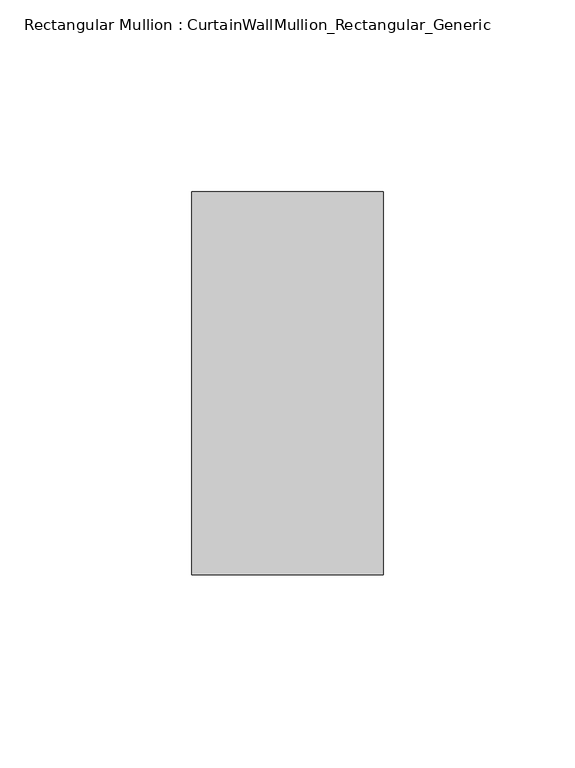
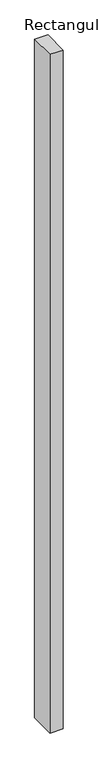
"""IFC4 building model written with IfcOpenShell, lengths in millimetres: member geometry, Rectangular Mullion : CurtainWallMullion_Rectangular_Generic."""

from ifc_helpers import new_model, si_unit, frame, origin, place, context, project, spatial, polyline, outline, extrude, source, transform, mapped, element, save


def rectangular_mullion_curtainwallmullion_rectangular_generic_12ad56c0(model_context):
    return source(origin(), model_context, "Body", "SweptSolid", [
        extrude(outline(polyline([(0.0, 50.0), (0.0, -50.0), (-50.0, -50.0), (-50.0, 50.0), (0.0, 50.0)])), frame((0.0, 0.0, -2714.5999999), z_axis=(0.0, 0.0, 1.0), x_axis=(1.0, 0.0, 0.0)), (0.0, 0.0, 1.0), 2714.5999999),
    ])


if __name__ == "__main__":
    model = new_model("IFC4")
    model_context = context("Model", 3, world=origin())
    ifc_project = project(units=[si_unit("LENGTHUNIT", "METRE", prefix="MILLI")], contexts=[model_context])
    site = spatial("IfcSite", under=ifc_project)
    building = spatial("IfcBuilding", under=site)
    placement = place(None, origin())
    rectangular_mullion_curtainwallmullion_rectangular_generic_shape = rectangular_mullion_curtainwallmullion_rectangular_generic_12ad56c0(model_context)
    element("IfcMember", 1, ObjectType="Rectangular Mullion : CurtainWallMullion_Rectangular_Generic", at=placement, inside=building, context=model_context, shape_type="MappedRepresentation", body=[
        mapped(rectangular_mullion_curtainwallmullion_rectangular_generic_shape, transform((0.0, 0.0, 0.0), x_axis=(1.0, 0.0, 0.0), y_axis=(0.0, 1.0, 0.0), z_axis=(0.0, 0.0, 1.0))),
    ])
    save(model, "model.ifc")
